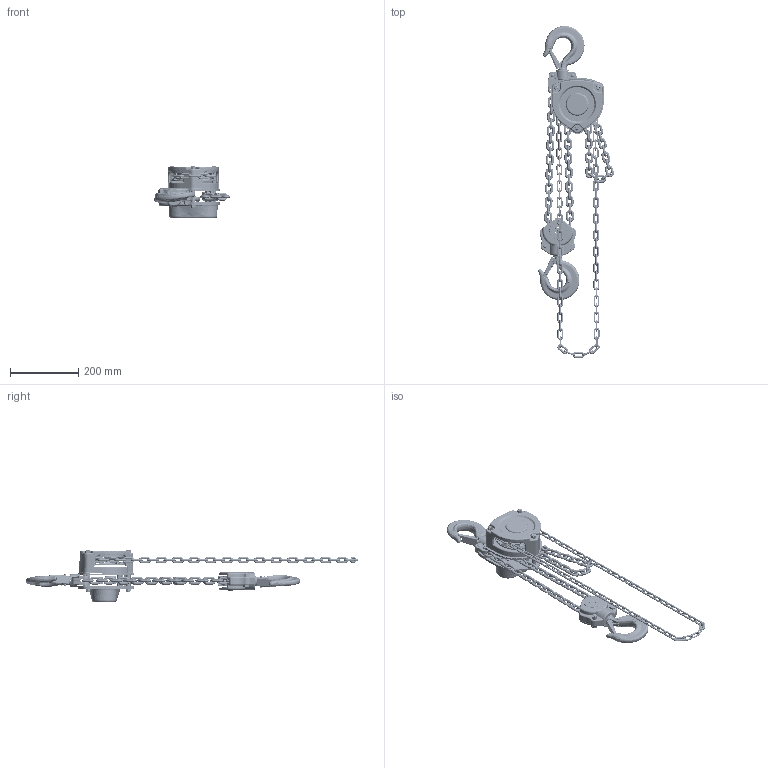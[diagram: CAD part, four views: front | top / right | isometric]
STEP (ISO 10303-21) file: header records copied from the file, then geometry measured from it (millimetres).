
FILE_DESCRIPTION (( 'STEP AP203' ), '1' );
FILE_NAME ('祥凄詩邧蟈蚾饜.STEP', '2023-09-06T06:09:13', ( '' ), ( '' ), 'SwSTEP 2.0', 'SolidWorks 2018', '' );
FILE_SCHEMA (( 'CONFIG_CONTROL_DESIGN' ));
Products named in the file (1): 祥凄詩邧蟈蚾饜
Bounding box: 221.65 x 969.46 x 153 mm (x, y, z)
Surface area: 510847.6 mm2 (no closed solid volume)
Topology: 0 solids, 215 shells, 2612 faces, 7252 edges, 4559 vertices
Faces by surface type: cylinder 876, bspline 644, torus 633, plane 345, cone 96, sphere 18
Entity records: 166436 total; most frequent: CARTESIAN_POINT 103720, DIRECTION 13453, ORIENTED_EDGE 12423, EDGE_CURVE 7223, AXIS2_PLACEMENT_3D 5802, VERTEX_POINT 4551, CIRCLE 3833, EDGE_LOOP 2749
